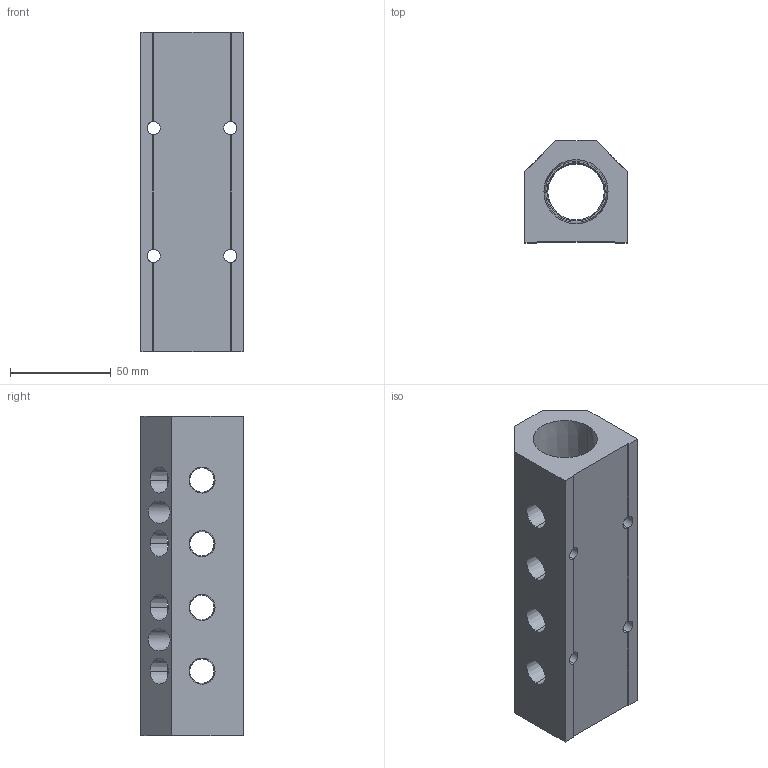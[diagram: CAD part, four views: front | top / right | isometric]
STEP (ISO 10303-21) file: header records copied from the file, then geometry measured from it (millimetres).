
FILE_DESCRIPTION (( 'STEP AP214' ), '1' );
FILE_NAME ('ALM4ABCDE-N4N16-159B.STEP', '2023-11-02T06:33:47', ( '' ), ( '' ), 'SwSTEP 2.0', 'SolidWorks 2020', '' );
FILE_SCHEMA (( 'AUTOMOTIVE_DESIGN' ));
Length unit declared in the file: millimetre
Products named in the file (1): ALM4ABCDE-N4N16-159B
Bounding box: 50.8 x 50.8 x 159 mm (x, y, z)
Volume: 227206.7 mm3; surface area: 55338.7 mm2
Topology: 1 solids, 1 shells, 377 faces, 1016 edges, 672 vertices
Faces by surface type: plane 245, bspline 62, cone 48, cylinder 22
Entity records: 20831 total; most frequent: CARTESIAN_POINT 8244, ORIENTED_EDGE 2032, DIRECTION 1536, EDGE_CURVE 1016, LINE 736, VECTOR 736, VERTEX_POINT 672, EDGE_LOOP 458
